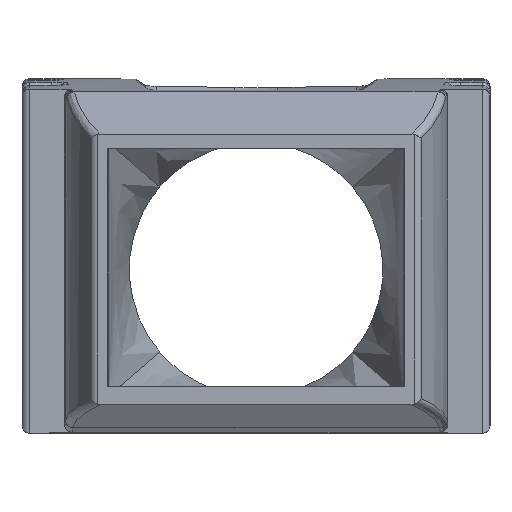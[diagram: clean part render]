
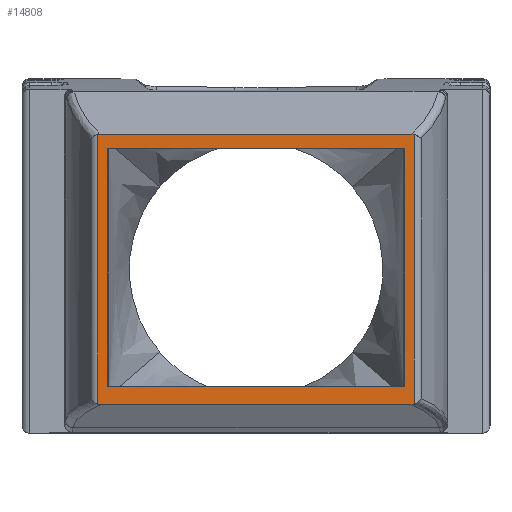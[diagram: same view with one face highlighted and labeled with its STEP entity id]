
A CAD part, front view. The second image highlights one B-rep face of the part: STEP entity #14808.
In plain terms, the highlighted planar face has unit normal (0, -1, 0).
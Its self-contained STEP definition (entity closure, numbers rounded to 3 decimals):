
#5573=DIRECTION('',(1.,0.,0.));
#5574=VECTOR('',#5573,38.481);
#5575=CARTESIAN_POINT('',(-19.24,-3.471,
33.715));
#5576=LINE('',#5575,#5574);
#5587=DIRECTION('',(0.,0.,1.));
#5588=VECTOR('',#5587,30.836);
#5589=CARTESIAN_POINT('',(-19.24,-3.471,
2.879));
#5590=LINE('',#5589,#5588);
#5643=DIRECTION('',(-1.,0.,0.));
#5644=VECTOR('',#5643,38.481);
#5645=CARTESIAN_POINT('',(19.241,-3.471,2.879));
#5646=LINE('',#5645,#5644);
#5657=DIRECTION('',(0.,0.,-1.));
#5658=VECTOR('',#5657,30.836);
#5659=CARTESIAN_POINT('',(19.241,-3.471,33.715));
#5660=LINE('',#5659,#5658);
#5671=DIRECTION('',(1.,0.,0.));
#5672=VECTOR('',#5671,40.372);
#5673=CARTESIAN_POINT('',(-20.194,-3.471,
35.514));
#5674=LINE('',#5673,#5672);
#5687=DIRECTION('',(-1.,0.,0.));
#5688=VECTOR('',#5687,40.101);
#5689=CARTESIAN_POINT('',(20.041,-3.471,
0.506));
#5690=LINE('',#5689,#5688);
#5720=CARTESIAN_POINT('',(-20.479,-3.471,
0.582));
#5721=CARTESIAN_POINT('',(-20.436,-3.471,
0.565));
#5722=CARTESIAN_POINT('',(-20.347,-3.471,
0.537));
#5723=CARTESIAN_POINT('',(-20.207,-3.471,
0.512));
#5724=CARTESIAN_POINT('',(-20.11,-3.471,
0.506));
#5725=CARTESIAN_POINT('',(-20.06,-3.471,
0.506));
#5913=DIRECTION('',(0.,0.,1.));
#5914=VECTOR('',#5913,34.888);
#5915=CARTESIAN_POINT('',(20.469,-3.471,
0.584));
#5916=LINE('',#5915,#5914);
#5930=CARTESIAN_POINT('',(20.469,-3.471,35.472));
#5931=CARTESIAN_POINT('',(20.439,-3.471,35.482));
#5932=CARTESIAN_POINT('',(20.376,-3.471,35.497));
#5933=CARTESIAN_POINT('',(20.279,-3.471,35.511));
#5934=CARTESIAN_POINT('',(20.212,-3.471,35.514));
#5935=CARTESIAN_POINT('',(20.178,-3.471,35.514));
#5958=CARTESIAN_POINT('',(-20.194,-3.471,
35.514));
#5959=CARTESIAN_POINT('',(-20.228,-3.471,
35.514));
#5960=CARTESIAN_POINT('',(-20.294,-3.471,
35.511));
#5961=CARTESIAN_POINT('',(-20.388,-3.471,
35.498));
#5962=CARTESIAN_POINT('',(-20.449,-3.471,
35.483));
#5963=CARTESIAN_POINT('',(-20.479,-3.471,
35.474));
#5985=DIRECTION('',(0.,0.,-1.));
#5986=VECTOR('',#5985,34.892);
#5987=CARTESIAN_POINT('',(-20.479,-3.471,
35.474));
#5988=LINE('',#5987,#5986);
#6047=CARTESIAN_POINT('',(20.041,-3.471,
0.506));
#6048=CARTESIAN_POINT('',(20.092,-3.471,
0.506));
#6049=CARTESIAN_POINT('',(20.192,-3.471,
0.512));
#6050=CARTESIAN_POINT('',(20.335,-3.471,
0.539));
#6051=CARTESIAN_POINT('',(20.425,-3.471,
0.567));
#6052=CARTESIAN_POINT('',(20.469,-3.471,
0.584));
#7990=VERTEX_POINT('',#6047);
#7991=VERTEX_POINT('',#6052);
#7993=VERTEX_POINT('',#5720);
#7994=VERTEX_POINT('',#5725);
#7995=CARTESIAN_POINT('',(-20.479,-3.471,
35.474));
#7996=VERTEX_POINT('',#7995);
#7997=VERTEX_POINT('',#5958);
#7998=CARTESIAN_POINT('',(20.178,-3.471,35.514));
#7999=VERTEX_POINT('',#7998);
#8000=VERTEX_POINT('',#5930);
#8001=CARTESIAN_POINT('',(-19.24,-3.471,
33.715));
#8002=CARTESIAN_POINT('',(19.241,-3.471,33.715));
#8003=VERTEX_POINT('',#8001);
#8004=VERTEX_POINT('',#8002);
#8005=CARTESIAN_POINT('',(-19.24,-3.471,
2.879));
#8006=VERTEX_POINT('',#8005);
#8007=CARTESIAN_POINT('',(19.241,-3.471,2.879));
#8008=VERTEX_POINT('',#8007);
#14779=CARTESIAN_POINT('',(-22.784,-3.471,
33.715));
#14780=DIRECTION('',(0.,-1.,0.));
#14781=DIRECTION('',(0.,0.,-1.));
#14782=AXIS2_PLACEMENT_3D('',#14779,#14780,#14781);
#14783=PLANE('',#14782);
#14785=ORIENTED_EDGE('',*,*,#14784,.T.);
#14787=ORIENTED_EDGE('',*,*,#14786,.F.);
#14789=ORIENTED_EDGE('',*,*,#14788,.F.);
#14791=ORIENTED_EDGE('',*,*,#14790,.F.);
#14793=ORIENTED_EDGE('',*,*,#14792,.T.);
#14795=ORIENTED_EDGE('',*,*,#14794,.F.);
#14797=ORIENTED_EDGE('',*,*,#14796,.F.);
#14799=ORIENTED_EDGE('',*,*,#14798,.F.);
#14800=EDGE_LOOP('',(#14785,#14787,#14789,#14791,#14793,#14795,#14797,#14799));
#14801=FACE_OUTER_BOUND('',#14800,.F.);
#14802=ORIENTED_EDGE('',*,*,#14717,.F.);
#14803=ORIENTED_EDGE('',*,*,#14733,.F.);
#14804=ORIENTED_EDGE('',*,*,#14760,.F.);
#14805=ORIENTED_EDGE('',*,*,#14773,.F.);
#14806=EDGE_LOOP('',(#14802,#14803,#14804,#14805));
#14807=FACE_BOUND('',#14806,.F.);
#5726=B_SPLINE_CURVE_WITH_KNOTS('',3,(#5720,#5721,#5722,#5723,#5724,#5725),
.UNSPECIFIED.,.F.,.F.,(4,1,1,4),(0.,0.333,0.667,1.),
.UNSPECIFIED.);
#5936=B_SPLINE_CURVE_WITH_KNOTS('',3,(#5930,#5931,#5932,#5933,#5934,#5935),
.UNSPECIFIED.,.F.,.F.,(4,1,1,4),(0.,0.333,0.667,1.),
.UNSPECIFIED.);
#5964=B_SPLINE_CURVE_WITH_KNOTS('',3,(#5958,#5959,#5960,#5961,#5962,#5963),
.UNSPECIFIED.,.F.,.F.,(4,1,1,4),(0.,0.333,0.667,1.),
.UNSPECIFIED.);
#6053=B_SPLINE_CURVE_WITH_KNOTS('',3,(#6047,#6048,#6049,#6050,#6051,#6052),
.UNSPECIFIED.,.F.,.F.,(4,1,1,4),(0.,0.333,0.667,1.),
.UNSPECIFIED.);
#14717=EDGE_CURVE('',#8003,#8004,#5576,.T.);
#14733=EDGE_CURVE('',#8006,#8003,#5590,.T.);
#14760=EDGE_CURVE('',#8008,#8006,#5646,.T.);
#14773=EDGE_CURVE('',#8004,#8008,#5660,.T.);
#14784=EDGE_CURVE('',#7990,#7994,#5690,.T.);
#14786=EDGE_CURVE('',#7993,#7994,#5726,.T.);
#14788=EDGE_CURVE('',#7996,#7993,#5988,.T.);
#14790=EDGE_CURVE('',#7997,#7996,#5964,.T.);
#14792=EDGE_CURVE('',#7997,#7999,#5674,.T.);
#14794=EDGE_CURVE('',#8000,#7999,#5936,.T.);
#14796=EDGE_CURVE('',#7991,#8000,#5916,.T.);
#14798=EDGE_CURVE('',#7990,#7991,#6053,.T.);
#14808=ADVANCED_FACE('',(#14801,#14807),#14783,.T.);
